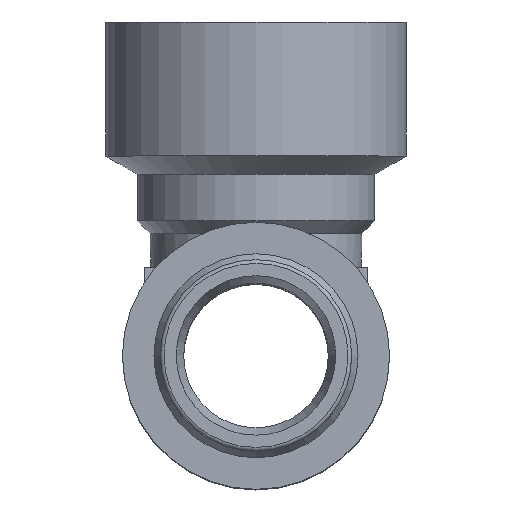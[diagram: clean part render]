
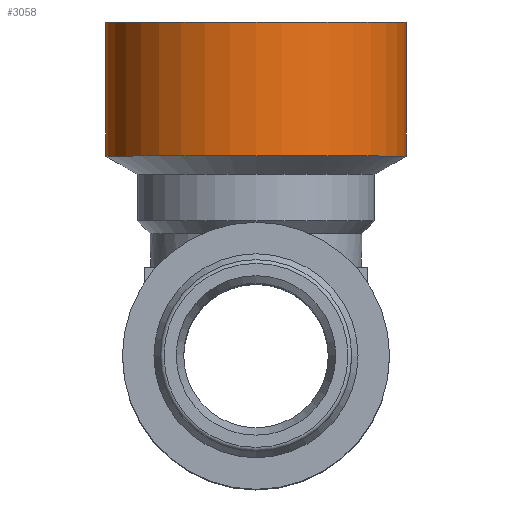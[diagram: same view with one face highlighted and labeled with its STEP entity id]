
A CAD part, top view. The second image highlights one B-rep face of the part: STEP entity #3058.
In plain terms, the highlighted cylindrical face has radius 20.25 mm (diameter 40.5 mm), a full revolution.
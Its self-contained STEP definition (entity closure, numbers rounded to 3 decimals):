
#159=CYLINDRICAL_SURFACE('',#3268,20.25);
#209=FACE_OUTER_BOUND('',#382,.T.);
#382=EDGE_LOOP('',(#2057,#2058,#2059,#2060,#2061,#2062));
#589=CIRCLE('',#3266,20.25);
#590=CIRCLE('',#3267,20.25);
#591=CIRCLE('',#3269,20.25);
#592=CIRCLE('',#3270,20.25);
#804=LINE('',#4718,#1004);
#1004=VECTOR('',#3689,20.25);
#1221=VERTEX_POINT('',#4709);
#1222=VERTEX_POINT('',#4710);
#1223=VERTEX_POINT('',#4714);
#1224=VERTEX_POINT('',#4715);
#1565=EDGE_CURVE('',#1221,#1222,#589,.T.);
#1566=EDGE_CURVE('',#1222,#1221,#590,.T.);
#1567=EDGE_CURVE('',#1223,#1224,#591,.T.);
#1568=EDGE_CURVE('',#1224,#1223,#592,.T.);
#1569=EDGE_CURVE('',#1224,#1222,#804,.T.);
#2057=ORIENTED_EDGE('',*,*,#1567,.F.);
#2058=ORIENTED_EDGE('',*,*,#1568,.F.);
#2059=ORIENTED_EDGE('',*,*,#1569,.T.);
#2060=ORIENTED_EDGE('',*,*,#1566,.T.);
#2061=ORIENTED_EDGE('',*,*,#1565,.T.);
#2062=ORIENTED_EDGE('',*,*,#1569,.F.);
#3058=ADVANCED_FACE('',(#209),#159,.T.);
#3266=AXIS2_PLACEMENT_3D('',#4711,#3679,#3680);
#3267=AXIS2_PLACEMENT_3D('',#4712,#3681,#3682);
#3268=AXIS2_PLACEMENT_3D('',#4713,#3683,#3684);
#3269=AXIS2_PLACEMENT_3D('',#4716,#3685,#3686);
#3270=AXIS2_PLACEMENT_3D('',#4717,#3687,#3688);
#3679=DIRECTION('center_axis',(0.,-1.,0.));
#3680=DIRECTION('ref_axis',(1.,0.,0.));
#3681=DIRECTION('center_axis',(0.,-1.,0.));
#3682=DIRECTION('ref_axis',(1.,0.,0.));
#3683=DIRECTION('center_axis',(0.,-1.,0.));
#3684=DIRECTION('ref_axis',(0.,0.,-1.));
#3685=DIRECTION('center_axis',(0.,-1.,0.));
#3686=DIRECTION('ref_axis',(1.,0.,0.));
#3687=DIRECTION('center_axis',(0.,-1.,0.));
#3688=DIRECTION('ref_axis',(1.,0.,0.));
#3689=DIRECTION('',(0.,1.,0.));
#4709=CARTESIAN_POINT('',(0.,45.,34.75));
#4710=CARTESIAN_POINT('',(0.,45.,75.25));
#4711=CARTESIAN_POINT('Origin',(0.,45.,55.));
#4712=CARTESIAN_POINT('Origin',(0.,45.,55.));
#4713=CARTESIAN_POINT('Origin',(0.,35.977,55.));
#4714=CARTESIAN_POINT('',(0.,26.954,34.75));
#4715=CARTESIAN_POINT('',(0.,26.954,75.25));
#4716=CARTESIAN_POINT('Origin',(0.,26.954,55.));
#4717=CARTESIAN_POINT('Origin',(0.,26.954,55.));
#4718=CARTESIAN_POINT('',(0.,35.977,75.25));
